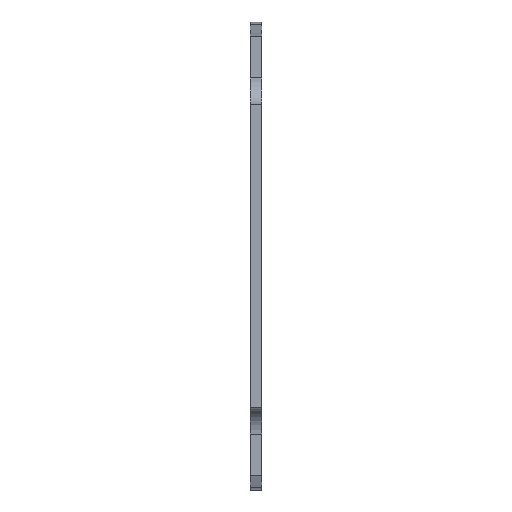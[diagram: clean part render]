
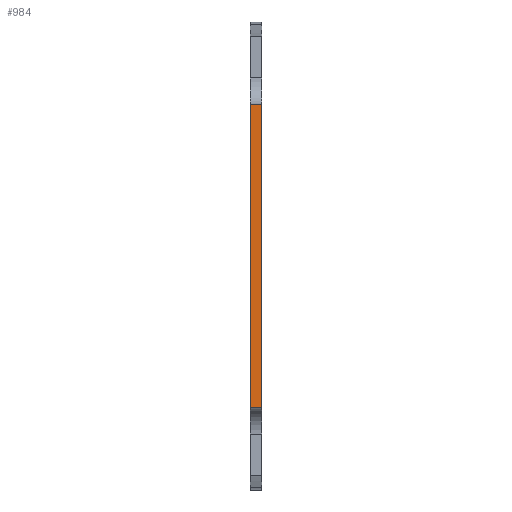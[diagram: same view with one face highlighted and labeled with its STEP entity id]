
A CAD part, left-side view. The second image highlights one B-rep face of the part: STEP entity #984.
In plain terms, the highlighted planar face has unit normal (-1, 0, 0).
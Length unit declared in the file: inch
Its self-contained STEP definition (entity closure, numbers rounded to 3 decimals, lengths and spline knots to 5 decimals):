
#38 = AXIS2_PLACEMENT_3D ( 'NONE', #112, #848, #533 ) ;
#75 = CARTESIAN_POINT ( 'NONE',  ( -2.87509, 0.197, -0.63513 ) ) ;
#77 = VECTOR ( 'NONE', #649, 39.37008 ) ;
#112 = CARTESIAN_POINT ( 'NONE',  ( -2.87509, -7.28206, -0.83647 ) ) ;
#150 = VERTEX_POINT ( 'NONE', #965 ) ;
#153 = ORIENTED_EDGE ( 'NONE', *, *, #409, .T. ) ;
#154 = CARTESIAN_POINT ( 'NONE',  ( -2.87509, -7.28206, 0.83647 ) ) ;
#161 = LINE ( 'NONE', #154, #627 ) ;
#190 = LINE ( 'NONE', #367, #338 ) ;
#193 = CARTESIAN_POINT ( 'NONE',  ( -2.87509, 0.197, -0.83647 ) ) ;
#245 = LINE ( 'NONE', #75, #77 ) ;
#336 = VERTEX_POINT ( 'NONE', #432 ) ;
#338 = VECTOR ( 'NONE', #522, 39.37008 ) ;
#355 = EDGE_CURVE ( 'NONE', #1056, #150, #161, .T. ) ;
#367 = CARTESIAN_POINT ( 'NONE',  ( -2.87509, 0.134, -0.63513 ) ) ;
#409 = EDGE_CURVE ( 'NONE', #150, #478, #245, .T. ) ;
#432 = CARTESIAN_POINT ( 'NONE',  ( -2.87509, 0.134, -0.83647 ) ) ;
#456 = PLANE ( 'NONE',  #38 ) ;
#478 = VERTEX_POINT ( 'NONE', #193 ) ;
#522 = DIRECTION ( 'NONE',  ( 0., 0., -1. ) ) ;
#533 = DIRECTION ( 'NONE',  ( 0., 0., 1. ) ) ;
#545 = DIRECTION ( 'NONE',  ( 0., 1., 0. ) ) ;
#620 = ORIENTED_EDGE ( 'NONE', *, *, #719, .F. ) ;
#627 = VECTOR ( 'NONE', #921, 39.37008 ) ;
#649 = DIRECTION ( 'NONE',  ( 0., 0., -1. ) ) ;
#671 = EDGE_CURVE ( 'NONE', #1056, #336, #190, .T. ) ;
#693 = FACE_OUTER_BOUND ( 'NONE', #801, .T. ) ;
#719 = EDGE_CURVE ( 'NONE', #336, #478, #949, .T. ) ;
#721 = ORIENTED_EDGE ( 'NONE', *, *, #355, .T. ) ;
#795 = CARTESIAN_POINT ( 'NONE',  ( -2.87509, -7.28206, -0.83647 ) ) ;
#801 = EDGE_LOOP ( 'NONE', ( #1026, #721, #153, #620 ) ) ;
#807 = CARTESIAN_POINT ( 'NONE',  ( -2.87509, 0.134, 0.83647 ) ) ;
#848 = DIRECTION ( 'NONE',  ( -1., 0., 0. ) ) ;
#921 = DIRECTION ( 'NONE',  ( 0., 1., 0. ) ) ;
#949 = LINE ( 'NONE', #795, #961 ) ;
#961 = VECTOR ( 'NONE', #545, 39.37008 ) ;
#965 = CARTESIAN_POINT ( 'NONE',  ( -2.87509, 0.197, 0.83647 ) ) ;
#984 = ADVANCED_FACE ( 'NONE', ( #693 ), #456, .T. ) ;
#1026 = ORIENTED_EDGE ( 'NONE', *, *, #671, .F. ) ;
#1056 = VERTEX_POINT ( 'NONE', #807 ) ;
